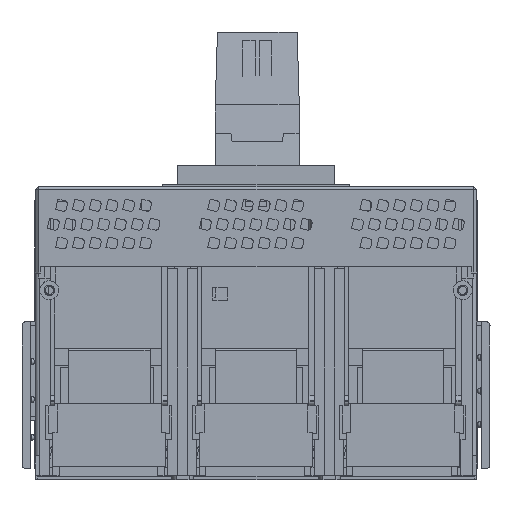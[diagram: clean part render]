
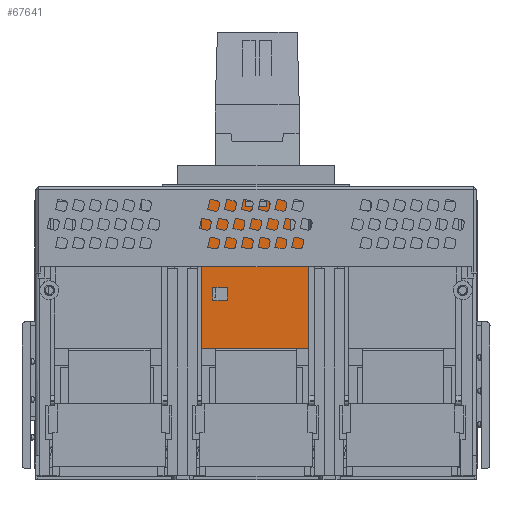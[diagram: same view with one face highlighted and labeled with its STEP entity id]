
A CAD part, front view. The second image highlights one B-rep face of the part: STEP entity #67641.
In plain terms, the highlighted planar face has unit normal (0, -1, 0.001).
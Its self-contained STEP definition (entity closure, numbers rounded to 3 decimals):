
#2485=DIRECTION('',(1.,0.,0.));
#2486=VECTOR('',#2485,51.);
#2487=CARTESIAN_POINT('',(81.66,23.411,81.097));
#2488=LINE('',#2487,#2486);
#2513=DIRECTION('',(1.,0.,0.));
#2514=VECTOR('',#2513,11.567);
#2515=CARTESIAN_POINT('',(112.527,23.451,154.297));
#2516=LINE('',#2515,#2514);
#2517=DIRECTION('',(0.,-0.001,-1.));
#2518=VECTOR('',#2517,18.15);
#2519=CARTESIAN_POINT('',(124.093,23.451,154.297));
#2520=LINE('',#2519,#2518);
#2521=DIRECTION('',(1.,0.,0.));
#2522=VECTOR('',#2521,8.567);
#2523=CARTESIAN_POINT('',(124.093,23.441,136.147));
#2524=LINE('',#2523,#2522);
#2525=DIRECTION('',(0.,-0.001,-1.));
#2526=VECTOR('',#2525,55.05);
#2527=CARTESIAN_POINT('',(132.66,23.441,136.147));
#2528=LINE('',#2527,#2526);
#2529=DIRECTION('',(0.,0.001,1.));
#2530=VECTOR('',#2529,73.2);
#2531=CARTESIAN_POINT('',(81.66,23.411,81.097));
#2532=LINE('',#2531,#2530);
#2533=DIRECTION('',(1.,0.,0.));
#2534=VECTOR('',#2533,20.867);
#2535=CARTESIAN_POINT('',(81.66,23.451,154.297));
#2536=LINE('',#2535,#2534);
#2541=DIRECTION('',(-1.,0.,0.));
#2542=VECTOR('',#2541,10.);
#2543=CARTESIAN_POINT('',(112.527,23.448,149.002));
#2544=LINE('',#2543,#2542);
#2553=DIRECTION('',(0.,-0.001,-1.));
#2554=VECTOR('',#2553,5.294);
#2555=CARTESIAN_POINT('',(112.527,23.451,154.297));
#2556=LINE('',#2555,#2554);
#2581=DIRECTION('',(0.,0.001,1.));
#2582=VECTOR('',#2581,5.294);
#2583=CARTESIAN_POINT('',(102.527,23.448,149.002));
#2584=LINE('',#2583,#2582);
#21535=DIRECTION('',(0.,0.001,1.));
#21536=VECTOR('',#21535,6.);
#21537=CARTESIAN_POINT('',(86.893,23.424,104.297));
#21538=LINE('',#21537,#21536);
#21543=DIRECTION('',(-1.,0.,0.));
#21544=VECTOR('',#21543,7.);
#21545=CARTESIAN_POINT('',(93.893,23.424,104.297));
#21546=LINE('',#21545,#21544);
#21555=DIRECTION('',(0.,-0.001,
-1.));
#21556=VECTOR('',#21555,6.);
#21557=CARTESIAN_POINT('',(93.893,23.427,110.297));
#21558=LINE('',#21557,#21556);
#21575=DIRECTION('',(1.,0.,0.));
#21576=VECTOR('',#21575,7.);
#21577=CARTESIAN_POINT('',(86.893,23.427,110.297));
#21578=LINE('',#21577,#21576);
#52054=CARTESIAN_POINT('',(81.66,23.451,154.297));
#52055=CARTESIAN_POINT('',(102.527,23.451,154.297));
#52056=VERTEX_POINT('',#52054);
#52057=VERTEX_POINT('',#52055);
#52110=CARTESIAN_POINT('',(112.527,23.448,149.002));
#52111=CARTESIAN_POINT('',(102.527,23.448,149.002));
#52112=VERTEX_POINT('',#52110);
#52113=VERTEX_POINT('',#52111);
#52114=CARTESIAN_POINT('',(112.527,23.451,154.297));
#52115=VERTEX_POINT('',#52114);
#52116=CARTESIAN_POINT('',(124.093,23.451,154.297));
#52117=VERTEX_POINT('',#52116);
#52118=CARTESIAN_POINT('',(124.093,23.441,136.147));
#52119=VERTEX_POINT('',#52118);
#52120=CARTESIAN_POINT('',(132.66,23.441,136.147));
#52121=VERTEX_POINT('',#52120);
#52122=CARTESIAN_POINT('',(132.66,23.411,81.097));
#52123=VERTEX_POINT('',#52122);
#52124=CARTESIAN_POINT('',(81.66,23.411,81.097));
#52125=VERTEX_POINT('',#52124);
#52126=CARTESIAN_POINT('',(86.893,23.427,110.297));
#52127=CARTESIAN_POINT('',(93.893,23.427,110.297));
#52128=VERTEX_POINT('',#52126);
#52129=VERTEX_POINT('',#52127);
#52130=CARTESIAN_POINT('',(86.893,23.424,104.297));
#52131=VERTEX_POINT('',#52130);
#52132=CARTESIAN_POINT('',(93.893,23.424,104.297));
#52133=VERTEX_POINT('',#52132);
#67607=CARTESIAN_POINT('',(135.493,23.451,154.297));
#67608=DIRECTION('',(0.,-1.,0.001));
#67609=DIRECTION('',(-1.,0.,0.));
#67610=AXIS2_PLACEMENT_3D('',#67607,#67608,#67609);
#67611=PLANE('',#67610);
#67613=ORIENTED_EDGE('',*,*,#67612,.F.);
#67615=ORIENTED_EDGE('',*,*,#67614,.F.);
#67617=ORIENTED_EDGE('',*,*,#67616,.T.);
#67619=ORIENTED_EDGE('',*,*,#67618,.T.);
#67621=ORIENTED_EDGE('',*,*,#67620,.T.);
#67622=ORIENTED_EDGE('',*,*,#65626,.T.);
#67623=ORIENTED_EDGE('',*,*,#67592,.F.);
#67624=ORIENTED_EDGE('',*,*,#65740,.T.);
#67626=ORIENTED_EDGE('',*,*,#67625,.T.);
#67628=ORIENTED_EDGE('',*,*,#67627,.F.);
#67629=EDGE_LOOP('',(#67613,#67615,#67617,#67619,#67621,#67622,#67623,#67624,
#67626,#67628));
#67630=FACE_OUTER_BOUND('',#67629,.F.);
#67632=ORIENTED_EDGE('',*,*,#67631,.F.);
#67634=ORIENTED_EDGE('',*,*,#67633,.F.);
#67636=ORIENTED_EDGE('',*,*,#67635,.F.);
#67638=ORIENTED_EDGE('',*,*,#67637,.F.);
#67639=EDGE_LOOP('',(#67632,#67634,#67636,#67638));
#67640=FACE_BOUND('',#67639,.F.);
#67641=ADVANCED_FACE('',(#67630,#67640),#67611,.T.);
#65626=EDGE_CURVE('',#52121,#52123,#2528,.T.);
#65740=EDGE_CURVE('',#52125,#52056,#2532,.T.);
#67592=EDGE_CURVE('',#52125,#52123,#2488,.T.);
#67612=EDGE_CURVE('',#52112,#52113,#2544,.T.);
#67614=EDGE_CURVE('',#52115,#52112,#2556,.T.);
#67616=EDGE_CURVE('',#52115,#52117,#2516,.T.);
#67618=EDGE_CURVE('',#52117,#52119,#2520,.T.);
#67620=EDGE_CURVE('',#52119,#52121,#2524,.T.);
#67625=EDGE_CURVE('',#52056,#52057,#2536,.T.);
#67627=EDGE_CURVE('',#52113,#52057,#2584,.T.);
#67631=EDGE_CURVE('',#52128,#52129,#21578,.T.);
#67633=EDGE_CURVE('',#52131,#52128,#21538,.T.);
#67635=EDGE_CURVE('',#52133,#52131,#21546,.T.);
#67637=EDGE_CURVE('',#52129,#52133,#21558,.T.);
